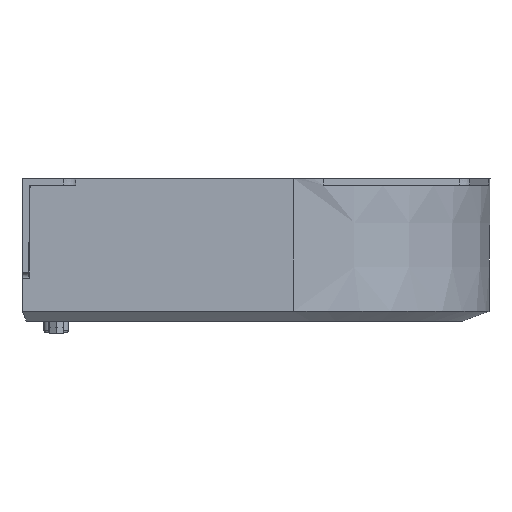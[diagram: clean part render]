
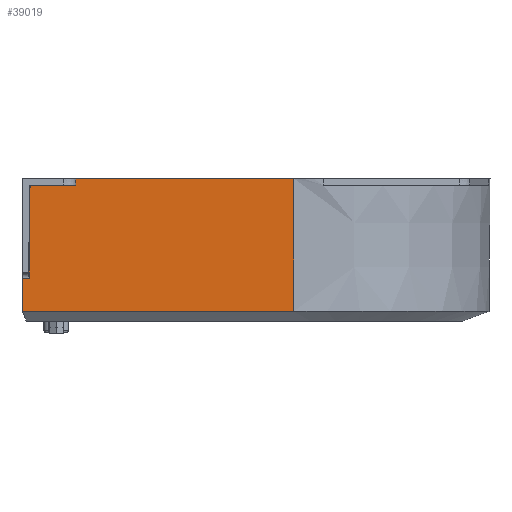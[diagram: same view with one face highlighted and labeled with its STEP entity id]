
A CAD part, left-side view. The second image highlights one B-rep face of the part: STEP entity #39019.
In plain terms, the highlighted planar face has unit normal (-1, 0, -0.009).
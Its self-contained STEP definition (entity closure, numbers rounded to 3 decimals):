
#759 = CARTESIAN_POINT ( 'NONE',  ( -72.569, 0., -49.156 ) ) ;
#1015 = ORIENTED_EDGE ( 'NONE', *, *, #39109, .T. ) ;
#1052 = CARTESIAN_POINT ( 'NONE',  ( -72.569, 100.858, -49.156 ) ) ;
#1524 = EDGE_LOOP ( 'NONE', ( #10239, #14392, #29007, #56365, #26723, #9558, #21171, #55363, #1015 ) ) ;
#1874 = LINE ( 'NONE', #17405, #7092 ) ;
#2075 = PLANE ( 'NONE',  #62118 ) ;
#3208 = VECTOR ( 'NONE', #57661, 1000. ) ;
#3664 = CARTESIAN_POINT ( 'NONE',  ( -72.677, 101., -36.783 ) ) ;
#4082 = VECTOR ( 'NONE', #31102, 1000. ) ;
#5520 = VERTEX_POINT ( 'NONE', #15400 ) ;
#7092 = VECTOR ( 'NONE', #55883, 1000. ) ;
#7152 = EDGE_CURVE ( 'NONE', #45168, #22594, #44142, .T. ) ;
#7882 = LINE ( 'NONE', #60049, #4082 ) ;
#9558 = ORIENTED_EDGE ( 'NONE', *, *, #29632, .F. ) ;
#9963 = EDGE_CURVE ( 'NONE', #53309, #5520, #1874, .T. ) ;
#10239 = ORIENTED_EDGE ( 'NONE', *, *, #9963, .T. ) ;
#13754 = DIRECTION ( 'NONE',  ( 0.009, 0., -1. ) ) ;
#14392 = ORIENTED_EDGE ( 'NONE', *, *, #55331, .T. ) ;
#14910 = CARTESIAN_POINT ( 'NONE',  ( -72.637, 103.967, -41.383 ) ) ;
#15400 = CARTESIAN_POINT ( 'NONE',  ( -72.677, 98.317, -36.783 ) ) ;
#15612 = CARTESIAN_POINT ( 'NONE',  ( -72.569, 8.941, -49.156 ) ) ;
#15837 = LINE ( 'NONE', #14910, #55730 ) ;
#15937 = CARTESIAN_POINT ( 'NONE',  ( -72.569, 76.246, -49.156 ) ) ;
#17405 = CARTESIAN_POINT ( 'NONE',  ( -73.007, 97.987, 1.055 ) ) ;
#17919 = DIRECTION ( 'NONE',  ( -1., 0., -0.009 ) ) ;
#19153 = VERTEX_POINT ( 'NONE', #37459 ) ;
#20414 = CARTESIAN_POINT ( 'NONE',  ( -72.569, 92.692, -49.156 ) ) ;
#20786 = EDGE_CURVE ( 'NONE', #54299, #22594, #15837, .T. ) ;
#21171 = ORIENTED_EDGE ( 'NONE', *, *, #39581, .T. ) ;
#21707 = B_SPLINE_CURVE_WITH_KNOTS ( 'NONE', 3,
 ( #1052, #20414, #15937, #39781, #54732, #15612, #49602 ),
 .UNSPECIFIED., .F., .F.,
 ( 4, 1, 1, 1, 4 ),
 ( 0., 0.025, 0.05, 0.076, 0.101 ),
 .UNSPECIFIED. ) ;
#22105 = LINE ( 'NONE', #3664, #33564 ) ;
#22594 = VERTEX_POINT ( 'NONE', #49488 ) ;
#24186 = LINE ( 'NONE', #30533, #31878 ) ;
#26723 = ORIENTED_EDGE ( 'NONE', *, *, #62095, .T. ) ;
#27442 = VERTEX_POINT ( 'NONE', #759 ) ;
#29007 = ORIENTED_EDGE ( 'NONE', *, *, #7152, .T. ) ;
#29281 = DIRECTION ( 'NONE',  ( -0.009, -0.009, 1. ) ) ;
#29582 = VERTEX_POINT ( 'NONE', #50119 ) ;
#29632 = EDGE_CURVE ( 'NONE', #29582, #27442, #7882, .T. ) ;
#30533 = CARTESIAN_POINT ( 'NONE',  ( -73.006, 80.994, 0.907 ) ) ;
#31102 = DIRECTION ( 'NONE',  ( 0.009, 0., -1. ) ) ;
#31878 = VECTOR ( 'NONE', #29281, 1000. ) ;
#32173 = VERTEX_POINT ( 'NONE', #47018 ) ;
#33564 = VECTOR ( 'NONE', #47500, 1000. ) ;
#33567 = LINE ( 'NONE', #52953, #62200 ) ;
#34337 = DIRECTION ( 'NONE',  ( -0.008, 0.371, 0.928 ) ) ;
#37024 = CARTESIAN_POINT ( 'NONE',  ( -73., 0., 0.2 ) ) ;
#37459 = CARTESIAN_POINT ( 'NONE',  ( -73., 81., 0.2 ) ) ;
#38234 = CARTESIAN_POINT ( 'NONE',  ( -72.976, 0., -2.498 ) ) ;
#39019 = ADVANCED_FACE ( 'NONE', ( #45559 ), #2075, .T. ) ;
#39109 = EDGE_CURVE ( 'NONE', #32173, #53309, #62423, .T. ) ;
#39379 = CARTESIAN_POINT ( 'NONE',  ( -73., 101., 0.2 ) ) ;
#39581 = EDGE_CURVE ( 'NONE', #29582, #19153, #33567, .T. ) ;
#39781 = CARTESIAN_POINT ( 'NONE',  ( -72.569, 51.572, -49.156 ) ) ;
#40312 = EDGE_CURVE ( 'NONE', #32173, #19153, #24186, .T. ) ;
#44142 = LINE ( 'NONE', #39379, #55011 ) ;
#45168 = VERTEX_POINT ( 'NONE', #62856 ) ;
#45559 = FACE_OUTER_BOUND ( 'NONE', #1524, .T. ) ;
#47018 = CARTESIAN_POINT ( 'NONE',  ( -72.976, 81.024, -2.498 ) ) ;
#47500 = DIRECTION ( 'NONE',  ( 0., 1., 0. ) ) ;
#48126 = DIRECTION ( 'NONE',  ( 0., 1., 0. ) ) ;
#49488 = CARTESIAN_POINT ( 'NONE',  ( -72.572, 101., -48.8 ) ) ;
#49602 = CARTESIAN_POINT ( 'NONE',  ( -72.569, 0., -49.156 ) ) ;
#50119 = CARTESIAN_POINT ( 'NONE',  ( -73., 0., 0.2 ) ) ;
#52953 = CARTESIAN_POINT ( 'NONE',  ( -73., 0., 0.2 ) ) ;
#53309 = VERTEX_POINT ( 'NONE', #60067 ) ;
#54299 = VERTEX_POINT ( 'NONE', #58495 ) ;
#54732 = CARTESIAN_POINT ( 'NONE',  ( -72.569, 26.309, -49.156 ) ) ;
#55011 = VECTOR ( 'NONE', #57879, 1000. ) ;
#55331 = EDGE_CURVE ( 'NONE', #5520, #45168, #22105, .T. ) ;
#55363 = ORIENTED_EDGE ( 'NONE', *, *, #40312, .F. ) ;
#55730 = VECTOR ( 'NONE', #34337, 1000. ) ;
#55883 = DIRECTION ( 'NONE',  ( 0.009, 0.009, -1. ) ) ;
#56365 = ORIENTED_EDGE ( 'NONE', *, *, #20786, .F. ) ;
#57661 = DIRECTION ( 'NONE',  ( 0., 1., 0. ) ) ;
#57879 = DIRECTION ( 'NONE',  ( 0.009, 0., -1. ) ) ;
#58495 = CARTESIAN_POINT ( 'NONE',  ( -72.569, 100.858, -49.156 ) ) ;
#60049 = CARTESIAN_POINT ( 'NONE',  ( -73., 0., 0.2 ) ) ;
#60067 = CARTESIAN_POINT ( 'NONE',  ( -72.976, 98.018, -2.498 ) ) ;
#62095 = EDGE_CURVE ( 'NONE', #54299, #27442, #21707, .T. ) ;
#62118 = AXIS2_PLACEMENT_3D ( 'NONE', #37024, #17919, #13754 ) ;
#62200 = VECTOR ( 'NONE', #48126, 1000. ) ;
#62423 = LINE ( 'NONE', #38234, #3208 ) ;
#62856 = CARTESIAN_POINT ( 'NONE',  ( -72.677, 101., -36.783 ) ) ;
